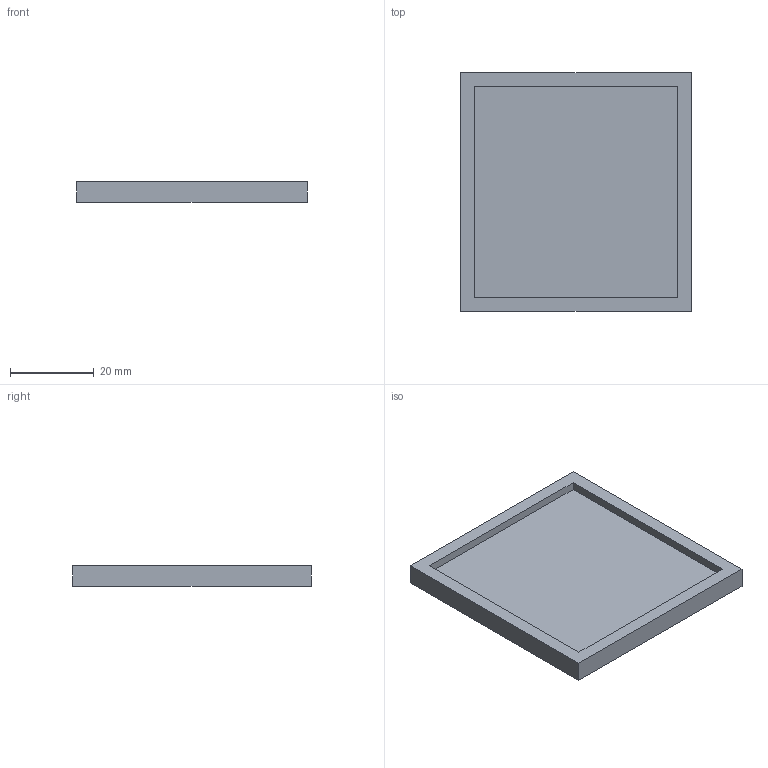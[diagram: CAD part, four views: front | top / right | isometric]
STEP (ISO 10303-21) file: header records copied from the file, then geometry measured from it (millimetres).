
FILE_DESCRIPTION(('Open CASCADE Model'),'2;1');
FILE_NAME('Open CASCADE Shape Model','2026-09-15T13:32:55',('Author'),( 'Open CASCADE'),'Open CASCADE STEP processor 7.7','Open CASCADE 7.7' ,'Unknown');
FILE_SCHEMA(('AUTOMOTIVE_DESIGN { 1 0 10303 214 1 1 1 1 }'));
Length unit declared in the file: millimetre
Products named in the file (1): JP01_GRILLE_HANDLING_TRAY
Bounding box: 55 x 57 x 5 mm (x, y, z)
Volume: 10776.5 mm3; surface area: 7786 mm2
Topology: 1 solids, 1 shells, 11 faces, 24 edges, 16 vertices
Faces by surface type: plane 11
Entity records: 612 total; most frequent: CARTESIAN_POINT 108, DIRECTION 88, LINE 64, VECTOR 64, ORIENTED_EDGE 48, PCURVE 48, DEFINITIONAL_REPRESENTATION 48, EDGE_CURVE 24
